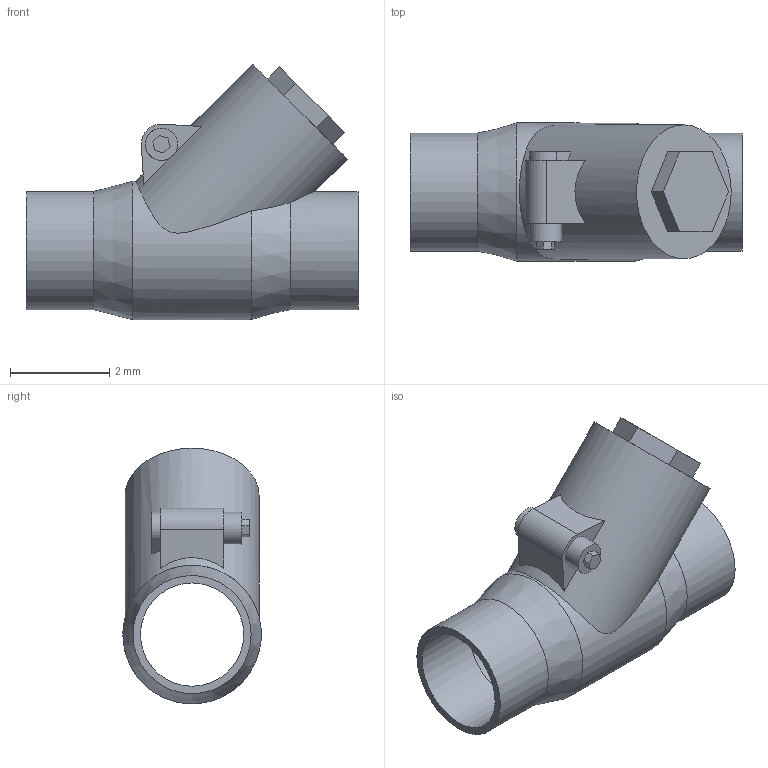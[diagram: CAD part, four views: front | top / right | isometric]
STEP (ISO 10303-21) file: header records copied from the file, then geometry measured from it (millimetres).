
FILE_DESCRIPTION(('Open CASCADE Model'),'2;1');
FILE_NAME('Open CASCADE Shape Model','2022-08-16T13:47:17',('Author'),( 'Open CASCADE'),'Open CASCADE STEP processor 7.3','Open CASCADE 7.3' ,'Unknown');
FILE_SCHEMA(('AUTOMOTIVE_DESIGN { 1 0 10303 214 1 1 1 1 }'));
Length unit declared in the file: millimetre
Products named in the file (3): Open CASCADE STEP translator 7.3 1; Open CASCADE STEP translator 7.3 1.1; Open CASCADE STEP translator 7.3 1.2
Assembly tree (2 placements, depth 2):
  Open CASCADE STEP translator 7.3 1
    Open CASCADE STEP translator 7.3 1.1
    Open CASCADE STEP translator 7.3 1.2
Bounding box: 6.69 x 2.79 x 5.15 mm (x, y, z)
Volume: 24.5 mm3; surface area: 132.8 mm2
Topology: 2 solids, 2 shells, 42 faces, 101 edges, 67 vertices
Faces by surface type: plane 29, cylinder 11, cone 2
Full cylindrical faces by diameter (mm): 0.65 x1, 2.08 x2, 2.274 x1, 2.38 x2, 2.7 x1, 2.79 x1
Entity records: 3685 total; most frequent: CARTESIAN_POINT 1623, DIRECTION 372, LINE 220, VECTOR 220, ORIENTED_EDGE 202, PCURVE 202, DEFINITIONAL_REPRESENTATION 202, EDGE_CURVE 101
